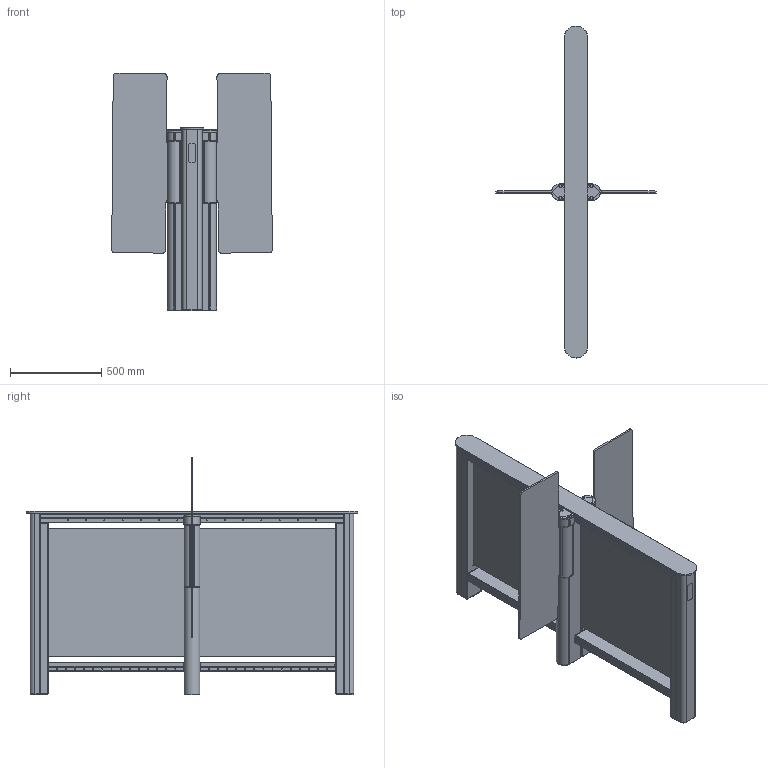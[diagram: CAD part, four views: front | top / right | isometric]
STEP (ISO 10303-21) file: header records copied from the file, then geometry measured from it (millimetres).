
FILE_DESCRIPTION(/* description */ ('Unknown'),/* implementation_level */ '2;1');
FILE_NAME(/* name */ 'ST-01_D_650H',/* time_stamp */ '2021-12-23T13:35:30+03:00',/* author */ ('Unknown'),/* organization */ ('Unknown'),/* preprocessor_version */ 'ST-DEVELOPER v18.1',/* originating_system */ 'Solid Edge',/* authorisation */ 'Unknown');
FILE_SCHEMA (('CONFIG_CONTROL_DESIGN'));
Products named in the file (160): ST-01_D; ST-01.1.006.00 砎魤鍱_oa_0; ST-01.1.002.00 栺鍣罻_oa_1; ST-01.1.002.02 砑僔蠂縺; ST-01.1.005.08 扻豵鵨; ST-01.1.031.00 沓劌錪 瀔魤鍱趌oa_2; ST-01.1.036.00 昜闉趌oa_3; BG65x25+PLG52+mufta_oa_4; ST-01.045.00ﾑﾁ ﾊ濱oa_5; ST-01.046.00 ﾊ濱oa_6; ST-01.046.09 Êîæóõ-Ïî óìîë÷àíèþ; ST-01.047.00 扰鍙欙樥燲oa_7; ST-01.047.04 Êðîíøòåéí-Ïî óìîë÷àíèþ; ST-01.760.00 Ïëàòà ýëåêòðîïðèâîäà_oa_8; ST-01.920.00 Êàáåëü ñîåäèíåíèÿ CAN; ST-01.1.004.00捘 昜闉趌oa_9; ST-01.1.004.06 Îïîðà; ST-01.008.00 ﾊ濱oa_10; ST-01.008.05 Êîæóõ; ST-01.008.00 ﾊ濱oa_11; ST-01.900.00 Êàáåëü ñîåäèíåíèÿ  DC; Äæàìïåð MJ-0_13; 淟檍瀖睯貗; ST-01.1.006.00 砎魤鍱_oa_12; ST-01.1.002.00 栺鍣罻_oa_13; ST-01.1.031.00 沓劌錪 瀔魤鍱趌oa_14; ST-01.1.036.00 昜闉趌oa_15; BG65x25+PLG52+mufta_oa_16; ST-01.045.00ﾑﾁ ﾊ濱oa_17; ST-01.046.00 ﾊ濱oa_18; ST-01.047.00 扰鍙欙樥燲oa_19; ST-01.760.00 Ïëàòà ýëåêòðîïðèâîäà_oa_20; ST-01.771.00 Ïëàòà óïðàâëåíèÿ_oa_21; Ïëîùàäêà ñàìîêëåþùàÿñÿ-c õîìóòîì; ST-01.922.00 忺摎錪 嚦鍣膱 CAN 椿; ST-01.1.004.00捘 昜闉趌oa_22; ST-01.008.00 ﾊ濱oa_23; ST-01.008.00 ﾊ濱oa_24; ST-01.921.00 忺摎錪 CAN 椿; RTD-03.715.00 Ïåðåìû÷êà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
Assembly tree (222 placements, depth 5):
  ST-01_D
    ST-01.1.006.00 砎魤鍱_oa_0
      ST-01.1.002.00 栺鍣罻_oa_1
        ST-01.1.002.02 砑僔蠂縺
      ST-01.1.005.08 扻豵鵨
      ST-01.1.031.00 沓劌錪 瀔魤鍱趌oa_2
        ST-01.1.036.00 昜闉趌oa_3
        BG65x25+PLG52+mufta_oa_4
      ST-01.045.00ﾑﾁ ﾊ濱oa_5
        ST-01.046.00 ﾊ濱oa_6
          ST-01.046.09 Êîæóõ-Ïî óìîë÷àíèþ
        ST-01.047.00 扰鍙欙樥燲oa_7
          ST-01.047.04 Êðîíøòåéí-Ïî óìîë÷àíèþ
      ST-01.760.00 Ïëàòà ýëåêòðîïðèâîäà_oa_8
      ST-01.920.00 Êàáåëü ñîåäèíåíèÿ CAN
      ST-01.1.004.00捘 昜闉趌oa_9
        ST-01.1.004.06 Îïîðà
      ST-01.008.00 ﾊ濱oa_10
        ST-01.008.05 Êîæóõ
      ST-01.008.00 ﾊ濱oa_11
        ST-01.008.05 Êîæóõ
      ST-01.900.00 Êàáåëü ñîåäèíåíèÿ  DC
      Äæàìïåð MJ-0_13
      淟檍瀖睯貗  x3
    ST-01.1.006.00 砎魤鍱_oa_12
      ST-01.1.002.00 栺鍣罻_oa_13
        ST-01.1.002.02 砑僔蠂縺
      ST-01.1.005.08 扻豵鵨
      ST-01.1.031.00 沓劌錪 瀔魤鍱趌oa_14
        ST-01.1.036.00 昜闉趌oa_15
        BG65x25+PLG52+mufta_oa_16
      ST-01.045.00ﾑﾁ ﾊ濱oa_17
        ST-01.046.00 ﾊ濱oa_18
          ST-01.046.09 Êîæóõ-Ïî óìîë÷àíèþ
        ST-01.047.00 扰鍙欙樥燲oa_19
          ST-01.047.04 Êðîíøòåéí-Ïî óìîë÷àíèþ
      ST-01.760.00 Ïëàòà ýëåêòðîïðèâîäà_oa_20
      ST-01.771.00 Ïëàòà óïðàâëåíèÿ_oa_21
      Ïëîùàäêà ñàìîêëåþùàÿñÿ-c õîìóòîì
      ST-01.922.00 忺摎錪 嚦鍣膱 CAN 椿
      ST-01.1.004.00捘 昜闉趌oa_22
        ST-01.1.004.06 Îïîðà
      ST-01.008.00 ﾊ濱oa_23
        ST-01.008.05 Êîæóõ
      ST-01.008.00 ﾊ濱oa_24
        ST-01.008.05 Êîæóõ
      ST-01.921.00 忺摎錪 CAN 椿
      淟檍瀖睯貗  x3
      RTD-03.715.00 Ïåðåìû÷êà
      ST-01.923.00 忺摎錪 嚦鍣膱 CAN
      ST-01.905.00 忺摎錪 DC 椿
    ST-01.1.010.00ﾑﾁ ﾊ濱oa_25
      ST-01.740.00 Ïëàòà èíäèêàòîðíîé ñòîéêè_oa_26
      ST-01.1.010.10 Ñòåêëî-Ïî óìîë÷àíèþ
      ST-01.1.011.00 ﾊ濱oa_27
        ST-01.1.011.05 署赅
      ST-01.1.009.00捘 扻豵鵨_oa_28
        ST-01.009.25 Êîæóõ
        ST-01.1.009.07 扻豵鵨
    ST-01.013.00 扻豂塺oa_29
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Bounding box: 880.39 x 1820 x 1300.88 mm (x, y, z)
Volume: 22449295.3 mm3; surface area: 10721370.9 mm2
Topology: 64 solids, 64 shells, 3551 faces, 9335 edges, 5888 vertices
Faces by surface type: plane 2512, cylinder 835, bspline 164, cone 32, torus 8
Full cylindrical faces by diameter (mm): 3.3 x44, 3.5 x12, 4 x13, 4.2 x5, 5 x104, 5.5 x8, 6 x10, 7 x18, 8 x1, 9 x1, 10 x6, 11 x18, 12 x16, 13.5 x4, 16 x4, 82.099 x1, 87 x2
Entity records: 77154 total; most frequent: CARTESIAN_POINT 17682, ORIENTED_EDGE 11566, DIRECTION 11185, EDGE_CURVE 5783, LINE 4397, VECTOR 4397, VERTEX_POINT 3782, AXIS2_PLACEMENT_3D 3394
